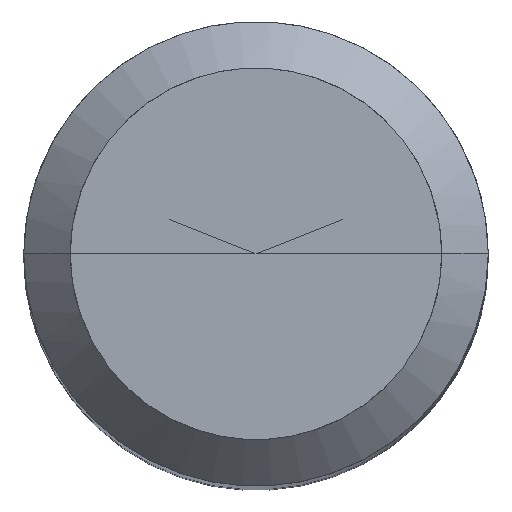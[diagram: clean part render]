
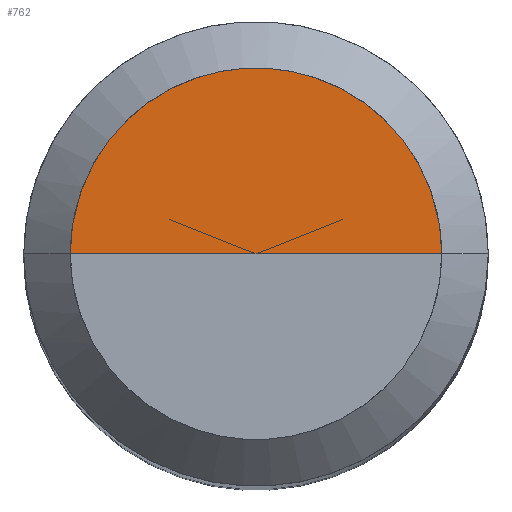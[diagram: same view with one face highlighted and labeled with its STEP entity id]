
A CAD part, top view. The second image highlights one B-rep face of the part: STEP entity #762.
In plain terms, the highlighted free-form (B-spline) face has degree [1, 2] with [2, 5] control points.
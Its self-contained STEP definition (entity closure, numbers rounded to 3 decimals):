
#565=CARTESIAN_POINT('',(3.2,0.0,32.0));
#566=CARTESIAN_POINT('',(3.2,3.2,32.0));
#567=CARTESIAN_POINT('',(0.0,3.2,32.0));
#568=CARTESIAN_POINT('',(-3.2,3.2,32.0));
#569=CARTESIAN_POINT('',(-3.2,0.0,32.0));
#570=CARTESIAN_POINT('',(0.0,0.0,32.0));
#747=(
BOUNDED_SURFACE()
B_SPLINE_SURFACE(1,2,(
(#565,#566,#567,#568,#569),
(#570,#570,#570,#570,#570)
), .UNSPECIFIED.,.F.,.F.,.F.)
B_SPLINE_SURFACE_WITH_KNOTS((2,2),(3,2,3),(
0.0,1.0),(
0.0,0.5,1.0), .UNSPECIFIED.)
GEOMETRIC_REPRESENTATION_ITEM()
RATIONAL_B_SPLINE_SURFACE(((1.0,0.707,1.0,0.707,1.0),
(1.0,0.707,1.0,0.707,1.0)
))
REPRESENTATION_ITEM('')
SURFACE()
);
#748=(
BOUNDED_CURVE()
B_SPLINE_CURVE(2,(#569,#568,#567,#566,#565),.UNSPECIFIED.,.F.,.F.)
B_SPLINE_CURVE_WITH_KNOTS((3,2,3),
(0.0,0.5,1.0),.UNSPECIFIED.)
CURVE()
GEOMETRIC_REPRESENTATION_ITEM()
RATIONAL_B_SPLINE_CURVE((1.0,0.707,1.0,0.707,1.0))
REPRESENTATION_ITEM('')
);
#749=(
BOUNDED_CURVE()
B_SPLINE_CURVE(1,(#565,#570),.UNSPECIFIED.,.F.,.F.)
B_SPLINE_CURVE_WITH_KNOTS((2,2),
(0.0,1.0),.UNSPECIFIED.)
CURVE()
GEOMETRIC_REPRESENTATION_ITEM()
RATIONAL_B_SPLINE_CURVE((1.0,1.0))
REPRESENTATION_ITEM('')
);
#750=(
BOUNDED_CURVE()
B_SPLINE_CURVE(1,(#570,#569),.UNSPECIFIED.,.F.,.F.)
B_SPLINE_CURVE_WITH_KNOTS((2,2),
(0.0,1.0),.UNSPECIFIED.)
CURVE()
GEOMETRIC_REPRESENTATION_ITEM()
RATIONAL_B_SPLINE_CURVE((1.0,1.0))
REPRESENTATION_ITEM('')
);
#751=VERTEX_POINT('',#565);
#752=VERTEX_POINT('',#569);
#753=VERTEX_POINT('',#570);
#754=EDGE_CURVE('',#752,#751,#748,.T.);
#755=EDGE_CURVE('',#751,#753,#749,.T.);
#756=EDGE_CURVE('',#753,#752,#750,.T.);
#757=ORIENTED_EDGE('',*,*,#754,.T.);
#758=ORIENTED_EDGE('',*,*,#755,.T.);
#759=ORIENTED_EDGE('',*,*,#756,.T.);
#760=EDGE_LOOP('',(#757,#758,#759));
#761=FACE_OUTER_BOUND('',#760,.T.);
#762=ADVANCED_FACE('',(#761),#747,.T.);
